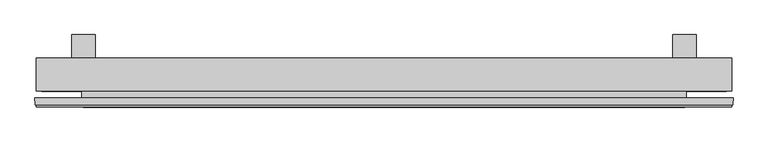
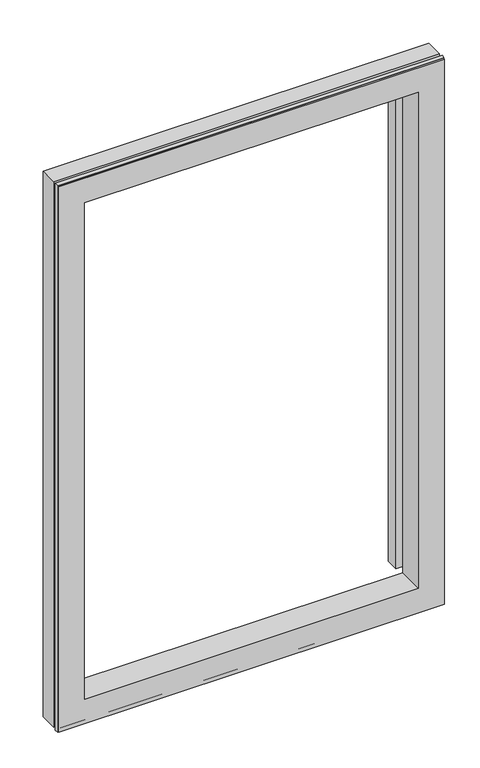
"""IFC4 building model written with IfcOpenShell, lengths in millimetres: plate geometry, Window-Profile-Danpal-NM : Window-Profile-Danpal-NM."""

from ifc_helpers import new_model, si_unit, origin, origin_with_axes, place, context, project, spatial, polyline, outline, extrude, faceted_brep, source, transform, mapped, element, save


def plate_cfd131bb(model_context):
    return source(origin(), model_context, "Body", "SolidModel", [
        extrude(outline(polyline([(491.2, 68.5), (491.2, 108.5), (531.2, 108.5), (531.2, 68.5), (491.2, 68.5)])), origin_with_axes(), (0.0, 0.0, 1.0), 1589.047587),
        extrude(outline(polyline([(-491.2, 68.5), (-531.2, 68.5), (-531.2, 108.5), (-491.2, 108.5), (-491.2, 68.5)])), origin_with_axes(), (0.0, 0.0, 1.0), 1589.047587),
        faceted_brep([(591.9784606, 12.2916596, 1668.8260476), (591.9784606, 12.2916596, -100.7784606), (591.9784606, 68.5048031, -100.7784606), (591.9784606, 68.5048031, 1668.8260476), (582.0282946, 13.60242, 1658.8758816), (582.0282946, 13.60242, -90.8282946), (582.0282946, 12.2916596, -90.8282946), (582.0282946, 12.2916596, 1658.8758816), (590.6582695, 27.650629, 1667.5058565), (590.6582695, 27.650629, -99.4582695), (590.6582695, 13.60242, -99.4582695), (590.6582695, 13.60242, 1667.5058565), (526.8000003, 15.804803, 1603.6475873), (526.8000003, 15.804803, -35.6000003), (526.8000003, 27.650629, -35.6000003), (526.8000003, 27.650629, 1603.6475873), (514.2000001, -7.107474, 1591.0475872), (514.2000001, -7.107474, -23.0000001), (514.2000001, 15.804803, -23.0000001), (514.2000001, 15.804803, 1591.0475872), (533.7478166, -12.307474, 1610.5954036), (533.7478166, -12.307474, -42.5478166), (533.7478166, -7.107474, -42.5478166), (533.7478166, -7.107474, 1610.5954036), (588.8478166, -11.1060971, 1665.6954036), (588.8478166, -11.1060971, -97.6478166), (588.8478166, -12.307474, -97.6478166), (588.8478166, -12.307474, 1665.6954036), (583.2577359, -9.0073407, 1660.1053229), (583.2577359, -9.0073407, -92.0577359), (588.9540801, -0.3086044, 1665.8016671), (588.9540801, -0.3086044, -97.7540801), (594.0779002, 0.4956236, 1670.9254872), (594.0779002, 0.4956236, -102.8779002), (593.3597999, -11.1306787, 1670.2073869), (593.3597999, -11.1306787, -102.1597999), (591.5474874, -14.7895984, 1668.3950744), (591.5474874, -14.7895984, -100.3474874), (591.5474874, -11.1306787, -100.3474874), (591.5474874, -11.1306787, 1668.3950744), (512.2, 68.5048031, 1589.047587), (512.2, 68.5048031, -21.0), (512.2, -14.7944308, -21.0), (512.2, -14.7944308, 1589.047587), (-591.9784606, 12.2916596, -100.7784606), (-591.9784606, 68.5048031, -100.7784606), (-582.0282946, 13.60242, -90.8282946), (-582.0282946, 12.2916596, -90.8282946), (-590.6582695, 27.650629, -99.4582695), (-590.6582695, 13.60242, -99.4582695), (-526.8000003, 15.804803, -35.6000003), (-526.8000003, 27.650629, -35.6000003), (-514.2000001, -7.107474, -23.0000001), (-514.2000001, 15.804803, -23.0000001), (-533.7478166, -12.307474, -42.5478166), (-533.7478166, -7.107474, -42.5478166), (-588.8478166, -11.1060971, -97.6478166), (-588.8478166, -12.307474, -97.6478166), (-583.2577359, -9.0073407, -92.0577359), (-588.9540801, -0.3086044, -97.7540801), (-594.0779002, 0.4956236, -102.8779002), (-593.3597999, -11.1306787, -102.1597999), (-591.5474874, -14.7895984, -100.3474874), (-591.5474874, -11.1306787, -100.3474874), (-512.2, 68.5048031, -21.0), (-512.2, -14.7944308, -21.0), (-591.9784606, 12.2916596, 1668.8260476), (-591.9784606, 68.5048031, 1668.8260476), (-582.0282946, 13.60242, 1658.8758816), (-582.0282946, 12.2916596, 1658.8758816), (-590.6582695, 27.650629, 1667.5058565), (-590.6582695, 13.60242, 1667.5058565), (-526.8000003, 15.804803, 1603.6475873), (-526.8000003, 27.650629, 1603.6475873), (-514.2000001, -7.107474, 1591.0475872), (-514.2000001, 15.804803, 1591.0475872), (-533.7478166, -12.307474, 1610.5954036), (-533.7478166, -7.107474, 1610.5954036), (-588.8478166, -11.1060971, 1665.6954036), (-588.8478166, -12.307474, 1665.6954036), (-583.2577359, -9.0073407, 1660.1053229), (-588.9540801, -0.3086044, 1665.8016671), (-594.0779002, 0.4956236, 1670.9254872), (-593.3597999, -11.1306787, 1670.2073869), (-591.5474874, -14.7895984, 1668.3950744), (-591.5474874, -11.1306787, 1668.3950744), (-512.2, 68.5048031, 1589.047587), (-512.2, -14.7944308, 1589.047587)], [[[0, 1, 2, 3]], [[4, 5, 6, 7]], [[8, 9, 10, 11]], [[12, 13, 14, 15]], [[16, 17, 18, 19]], [[20, 21, 22, 23]], [[24, 25, 26, 27]], [[28, 29, 25, 24]], [[30, 31, 29, 28]], [[32, 33, 31, 30]], [[34, 35, 33, 32]], [[36, 37, 38, 39]], [[40, 41, 42, 43]], [[1, 44, 45, 2]], [[5, 46, 47, 6]], [[9, 48, 49, 10]], [[13, 50, 51, 14]], [[17, 52, 53, 18]], [[21, 54, 55, 22]], [[25, 56, 57, 26]], [[29, 58, 56, 25]], [[31, 59, 58, 29]], [[33, 60, 59, 31]], [[35, 61, 60, 33]], [[37, 62, 63, 38]], [[41, 64, 65, 42]], [[44, 66, 67, 45]], [[46, 68, 69, 47]], [[48, 70, 71, 49]], [[50, 72, 73, 51]], [[52, 74, 75, 53]], [[54, 76, 77, 55]], [[56, 78, 79, 57]], [[58, 80, 78, 56]], [[59, 81, 80, 58]], [[60, 82, 81, 59]], [[61, 83, 82, 60]], [[62, 84, 85, 63]], [[64, 86, 87, 65]], [[3, 2, 45, 67], [41, 40, 86, 64]], [[66, 0, 3, 67]], [[1, 0, 66, 44], [7, 6, 47, 69]], [[68, 4, 7, 69]], [[11, 10, 49, 71], [5, 4, 68, 46]], [[70, 8, 11, 71]], [[9, 8, 70, 48], [15, 14, 51, 73]], [[72, 12, 15, 73]], [[13, 12, 72, 50], [19, 18, 53, 75]], [[74, 16, 19, 75]], [[23, 22, 55, 77], [17, 16, 74, 52]], [[76, 20, 23, 77]], [[27, 26, 57, 79], [21, 20, 76, 54]], [[78, 24, 27, 79]], [[80, 28, 24, 78]], [[81, 30, 28, 80]], [[82, 32, 30, 81]], [[83, 34, 32, 82]], [[35, 34, 83, 61], [39, 38, 63, 85]], [[84, 36, 39, 85]], [[37, 36, 84, 62], [43, 42, 65, 87]], [[86, 40, 43, 87]]]),
    ])


if __name__ == "__main__":
    model = new_model("IFC4")
    model_context = context("Model", 3, world=origin())
    ifc_project = project(units=[si_unit("LENGTHUNIT", "METRE", prefix="MILLI")], contexts=[model_context])
    site = spatial("IfcSite", under=ifc_project)
    building = spatial("IfcBuilding", under=site)
    placement = place(None, origin())
    plate_shape = plate_cfd131bb(model_context)
    element("IfcPlate", 1, ObjectType="Window-Profile-Danpal-NM : Window-Profile-Danpal-NM", at=placement, inside=building, context=model_context, shape_type="MappedRepresentation", body=[
        mapped(plate_shape, transform((0.0, 0.0, 0.0), x_axis=(1.0, 0.0, 0.0), y_axis=(0.0, 1.0, 0.0), z_axis=(0.0, 0.0, 1.0))),
    ])
    save(model, "model.ifc")
